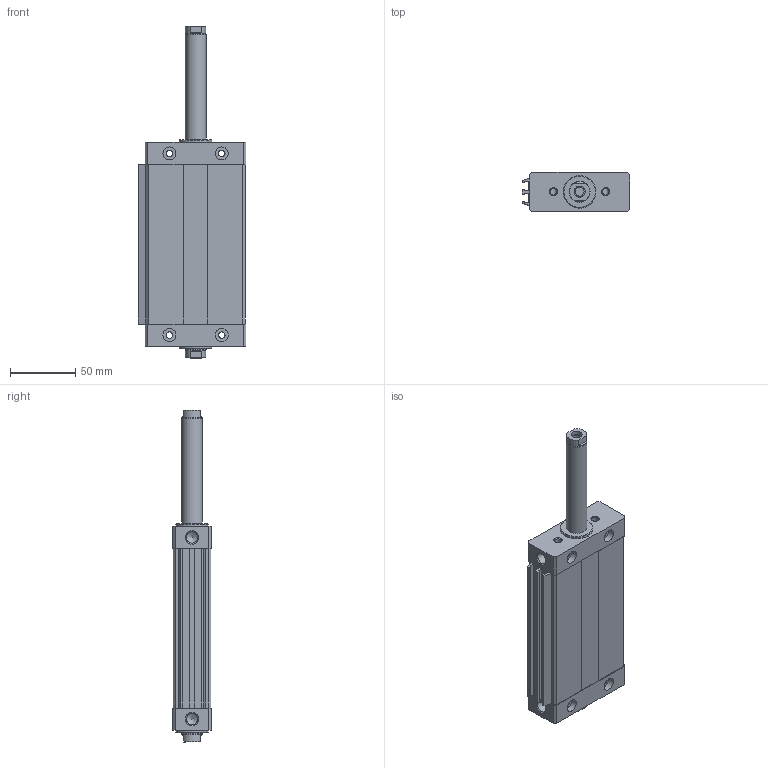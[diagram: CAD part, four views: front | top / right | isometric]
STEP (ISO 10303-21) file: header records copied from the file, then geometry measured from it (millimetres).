
FILE_DESCRIPTION((''),'2;1');
FILE_NAME('I:\Area Tecnica\Disegni\VARIE-3D\Componenti\1370 - CPO\1370_##_0000_03\1370_40_0080_03-01.iam.step','2010-12-16T10:56:33',(''),(''),'Autodesk Inventor 2011','Autodesk Inventor 2011','');
FILE_SCHEMA(('AUTOMOTIVE_DESIGN { 1 0 10303 214 1 1 1 1 }'));
Length unit declared in the file: millimetre
Products named in the file (5): 1370_40_0080_03-01; 1370_05_40_0000; 1370_06_40_0080; 1370_08_40_0000; 1370_3_40_0080
Assembly tree (4 placements, depth 2):
  1370_40_0080_03-01
    1370_05_40_0000
    1370_06_40_0080
    1370_08_40_0000
    1370_3_40_0080
Bounding box: 82.5 x 30 x 254 mm (x, y, z)
Volume: 276205 mm3; surface area: 94066.6 mm2
Topology: 4 solids, 4 shells, 166 faces, 398 edges, 254 vertices
Faces by surface type: plane 94, cylinder 48, cone 24
Full cylindrical faces by diameter (mm): 5 x10, 6.8 x2, 8.4 x2, 8.7 x2, 10 x8, 15.5 x2, 16 x4, 25 x2
Entity records: 4848 total; most frequent: DIRECTION 802, CARTESIAN_POINT 799, ORIENTED_EDGE 672, EDGE_CURVE 336, AXIS2_PLACEMENT_3D 299, EDGE_LOOP 254, VERTEX_POINT 244, VECTOR 204
